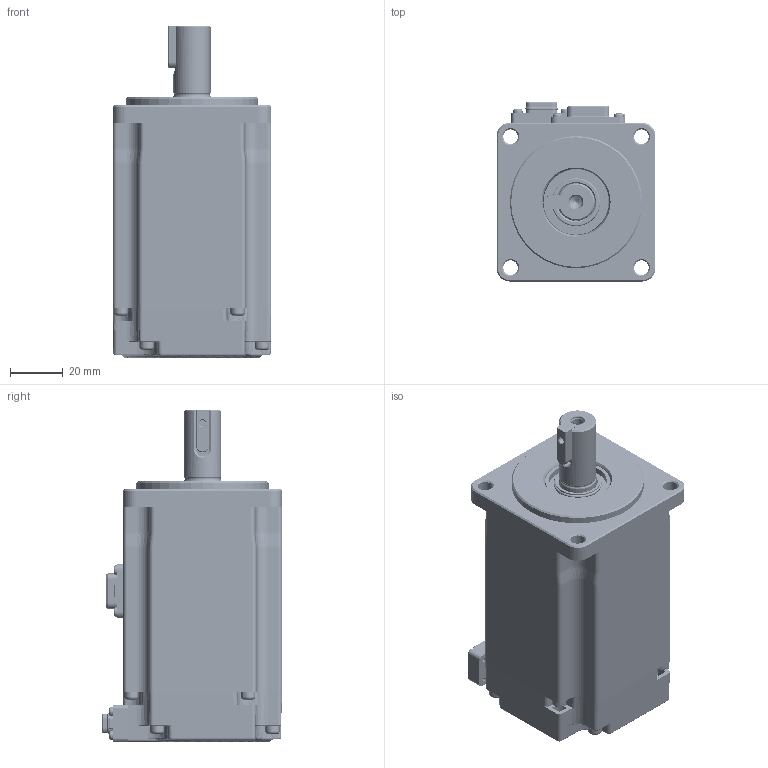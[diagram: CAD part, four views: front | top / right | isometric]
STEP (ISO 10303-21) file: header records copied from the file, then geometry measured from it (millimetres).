
FILE_DESCRIPTION((''),'2;1');
FILE_NAME('11101-01192_ASM','2024-09-05T15:53:37',('admin'),(''),'CREO PARAMETRIC BY PTC INC, 2019080','CREO PARAMETRIC BY PTC INC, 2019080','');
FILE_SCHEMA(('CONFIG_CONTROL_DESIGN'));
Products named in the file (103): 80040363_AF0; 66670033_AF0; 77840024_AF0; 77840025_AF0; 50001-00056_AF0; 20BDZZJ_AF0_ASM; 66670033_AF1; 77840024_AF1; 77840025_AF1; 50001-00056_AF1; 20BDZZJ_AF1_ASM; 66670033_AF2; 77840024_AF2; 77840025_AF2; 50001-00056_AF2; 20BDZZJ_AF2_ASM; 66670033_AF3; 77840024_AF3; 77840025_AF3; 50001-00056_AF3; 20BDZZJ_AF3_ASM; 66670033_AF4; 77840024_AF4; 77840025_AF4; 50001-00056_AF4; 20BDZZJ_AF4_ASM; 66670033_AF5; 77840024_AF5; 77840025_AF5; 50001-00056_AF5; 20BDZZJ_AF5_ASM; 66670033_AF6; 77840024_AF6; 77840025_AF6; 50001-00056_AF6; 20BDZZJ_AF6_ASM; 66670033_AF7; 77840024_AF7; 77840025_AF7; 50001-00056_AF7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
Assembly tree (105 placements, depth 4):
  11101-01192_ASM
    12112-00983_AF0_ASM
      80040363_AF0
      20BDZZJ_AF0_ASM
        66670033_AF0
        77840024_AF0
        77840025_AF0
        50001-00056_AF0
      20BDZZJ_AF1_ASM
        66670033_AF1
        77840024_AF1
        77840025_AF1
        50001-00056_AF1
      20BDZZJ_AF2_ASM
        66670033_AF2
        77840024_AF2
        77840025_AF2
        50001-00056_AF2
      20BDZZJ_AF3_ASM
        66670033_AF3
        77840024_AF3
        77840025_AF3
        50001-00056_AF3
      20BDZZJ_AF4_ASM
        66670033_AF4
        77840024_AF4
        77840025_AF4
        50001-00056_AF4
      20BDZZJ_AF5_ASM
        66670033_AF5
        77840024_AF5
        77840025_AF5
        50001-00056_AF5
      20BDZZJ_AF6_ASM
        66670033_AF6
        77840024_AF6
        77840025_AF6
        50001-00056_AF6
      20BDZZJ_AF7_ASM
        66670033_AF7
        77840024_AF7
        77840025_AF7
        50001-00056_AF7
      20BDZZJ_AF8_ASM
        66670033_AF8
        77840024_AF8
        77840025_AF8
        50001-00056_AF8
      20BDZZJ_AF9_ASM
        66670033_AF9
        77840024_AF9
        77840025_AF9
        50001-00056_AF9
      20BDZZJ_AF10_ASM
        66670033_AF10
        77840024_AF10
        77840025_AF10
        50001-00056_AF10
      20BDZZJ_AF11_ASM
        66670033_AF11
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Bounding box: 60 x 67.95 x 125.5 mm (x, y, z)
Volume: 84063.5 mm3; surface area: 69453.8 mm2
Topology: 24 solids, 47 shells, 3117 faces, 8350 edges, 5381 vertices
Faces by surface type: plane 1319, cylinder 1158, bspline 237, cone 183, torus 158, extrusion 49, sphere 13
Entity records: 154238 total; most frequent: CARTESIAN_POINT 79938, ORIENTED_EDGE 15802, DIRECTION 14099, EDGE_CURVE 7947, VERTEX_POINT 5135, AXIS2_PLACEMENT_3D 4796, VECTOR 4507, LINE 4458
